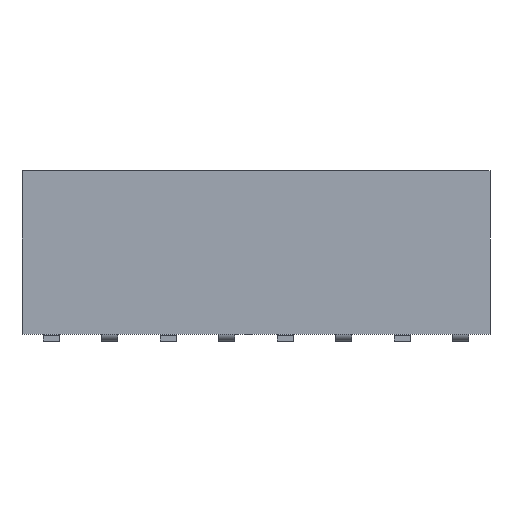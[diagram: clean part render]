
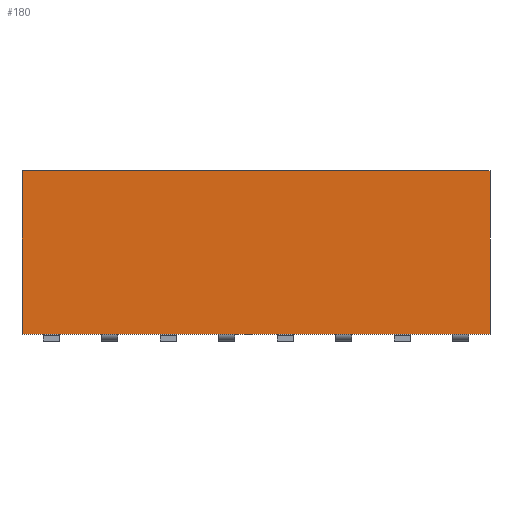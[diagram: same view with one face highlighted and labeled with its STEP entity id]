
A CAD part, front view. The second image highlights one B-rep face of the part: STEP entity #180.
In plain terms, the highlighted planar face has unit normal (0, -1, 0).
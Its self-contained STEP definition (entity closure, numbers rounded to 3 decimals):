
#90 = EDGE_CURVE ( 'NONE', #276, #275, #1162, .T. ) ;
#180 = ADVANCED_FACE ( 'NONE', ( #1878 ), #1871, .F. ) ;
#256 = EDGE_CURVE ( 'NONE', #1129, #1496, #955, .T. ) ;
#257 = EDGE_CURVE ( 'NONE', #1496, #275, #967, .T. ) ;
#258 = EDGE_CURVE ( 'NONE', #276, #1129, #292, .T. ) ;
#270 = VECTOR ( 'NONE', #289, 1000. ) ;
#274 = VECTOR ( 'NONE', #291, 1000. ) ;
#275 = VERTEX_POINT ( 'NONE', #314 ) ;
#276 = VERTEX_POINT ( 'NONE', #318 ) ;
#289 = DIRECTION ( 'NONE',  ( -1., 0., 0. ) ) ;
#290 = CARTESIAN_POINT ( 'NONE',  ( -35.776, 14.474, 7.1 ) ) ;
#291 = DIRECTION ( 'NONE',  ( 0., 0., -1. ) ) ;
#292 = LINE ( 'NONE', #293, #1429 ) ;
#293 = CARTESIAN_POINT ( 'NONE',  ( -15.456, 14.474, 0. ) ) ;
#294 = DIRECTION ( 'NONE',  ( 0., 0., 1. ) ) ;
#314 = CARTESIAN_POINT ( 'NONE',  ( -35.776, 14.474, 0. ) ) ;
#318 = CARTESIAN_POINT ( 'NONE',  ( -15.456, 14.474, 0. ) ) ;
#431 = ORIENTED_EDGE ( 'NONE', *, *, #257, .T. ) ;
#433 = ORIENTED_EDGE ( 'NONE', *, *, #258, .T. ) ;
#438 = ORIENTED_EDGE ( 'NONE', *, *, #90, .F. ) ;
#505 = ORIENTED_EDGE ( 'NONE', *, *, #256, .T. ) ;
#811 = CARTESIAN_POINT ( 'NONE',  ( -15.456, 14.474, 7.1 ) ) ;
#955 = LINE ( 'NONE', #979, #270 ) ;
#967 = LINE ( 'NONE', #290, #274 ) ;
#979 = CARTESIAN_POINT ( 'NONE',  ( -15.456, 14.474, 7.1 ) ) ;
#1129 = VERTEX_POINT ( 'NONE', #811 ) ;
#1162 = LINE ( 'NONE', #1167, #1506 ) ;
#1167 = CARTESIAN_POINT ( 'NONE',  ( -15.456, 14.474, 0. ) ) ;
#1169 = DIRECTION ( 'NONE',  ( -1., 0., 0. ) ) ;
#1429 = VECTOR ( 'NONE', #294, 1000. ) ;
#1496 = VERTEX_POINT ( 'NONE', #1825 ) ;
#1506 = VECTOR ( 'NONE', #1169, 1000. ) ;
#1582 = EDGE_LOOP ( 'NONE', ( #505, #431, #438, #433 ) ) ;
#1736 = AXIS2_PLACEMENT_3D ( 'NONE', #1873, #1880, #1881 ) ;
#1825 = CARTESIAN_POINT ( 'NONE',  ( -35.776, 14.474, 7.1 ) ) ;
#1871 = PLANE ( 'NONE',  #1736 ) ;
#1873 = CARTESIAN_POINT ( 'NONE',  ( -15.456, 14.474, 0. ) ) ;
#1878 = FACE_OUTER_BOUND ( 'NONE', #1582, .T. ) ;
#1880 = DIRECTION ( 'NONE',  ( 0., 1., 0. ) ) ;
#1881 = DIRECTION ( 'NONE',  ( 0., 0., 1. ) ) ;
